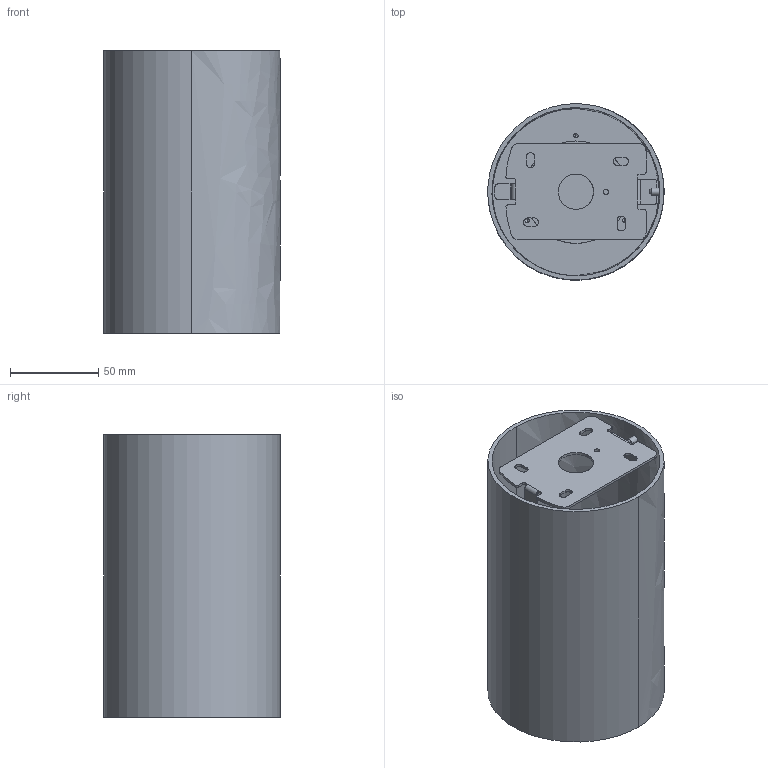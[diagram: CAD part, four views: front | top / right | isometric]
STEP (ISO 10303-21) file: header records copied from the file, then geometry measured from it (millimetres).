
FILE_DESCRIPTION(/* description */ (''),/* implementation_level */ '2;1');
FILE_NAME(/* name */ 'P127__.010',/* time_stamp */ '2024-06-18T12:29:02+02:00',/* author */ (''),/* organization */ (''),/* preprocessor_version */ 'ST-DEVELOPER v16.5',/* originating_system */ '',/* authorisation */ '');
FILE_SCHEMA (('AUTOMOTIVE_DESIGN'));
Length unit declared in the file: millimetre
Products named in the file (7): Document; 3200.0803000.00 (staffa di fissaggio ACC 79,5x54,5x16,9mm sp 1,2)_320
9.0803000.00; Blocco 10; 3300.0487000.00 (testata di chiusura cilindrica ALL con filetto ester
no)_3307.0487010.00; Blocco 01; 3100.0106000.00 (lente semisferica PC)_3100.0106008.00; Blocco 04
Assembly tree (6 placements, depth 3):
  Document
    3200.0803000.00 (staffa di fissaggio ACC 79,5x54,5x16,9mm sp 1,2)_320
9.0803000.00
      Blocco 10
    3300.0487000.00 (testata di chiusura cilindrica ALL con filetto ester
no)_3307.0487010.00
      Blocco 01
    3100.0106000.00 (lente semisferica PC)_3100.0106008.00
      Blocco 04
Bounding box: 99.9 x 100 x 160 mm (x, y, z)
Volume: 115759.8 mm3; surface area: 136523.3 mm2
Topology: 2 solids, 131 shells, 154 faces, 702 edges, 674 vertices
Faces by surface type: bspline 92, plane 62
Entity records: 9189 total; most frequent: CARTESIAN_POINT 5407, ORIENTED_EDGE 748, EDGE_CURVE 694, VERTEX_POINT 674, B_SPLINE_CURVE_WITH_KNOTS 392, EDGE_LOOP 180, ADVANCED_FACE 154, FACE_OUTER_BOUND 154
